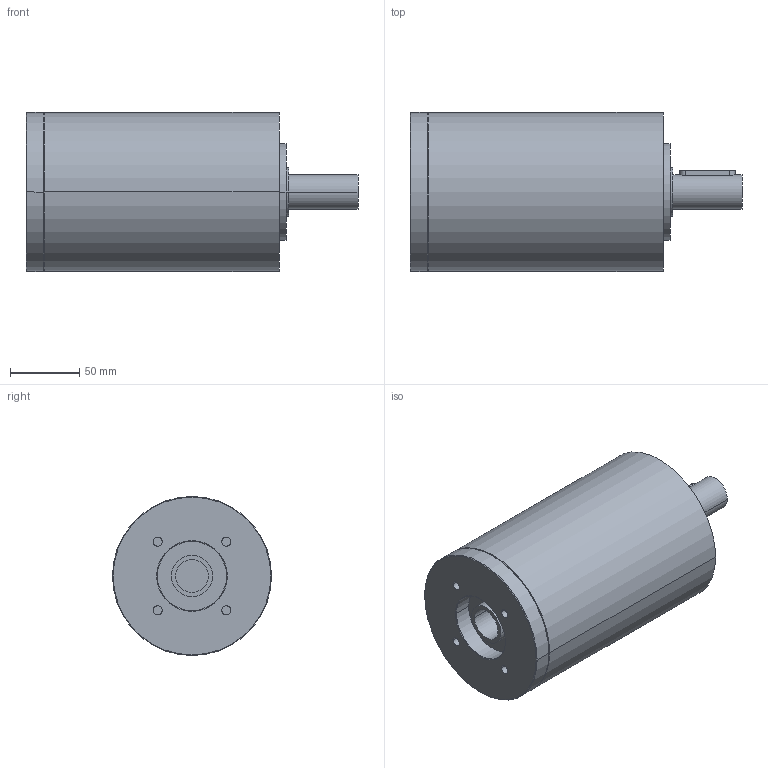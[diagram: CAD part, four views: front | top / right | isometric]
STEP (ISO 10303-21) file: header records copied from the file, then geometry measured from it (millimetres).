
FILE_DESCRIPTION(('CoCreate Modeling STEP Export'),'2;1');
FILE_NAME('GPR125_ig-9-12-16-20-28-35_25_B14_24_P14.stp','2014-08-26T14:11:23',(''),(''),'CoCreate Modeling STEP processor for AP214 (Solid Model)','CoCreate Modeling 16.00C 25-Feb-2009 (C) Parametric Technology GmbH','');
FILE_SCHEMA(('AUTOMOTIVE_DESIGN { 1 0 10303 214 1 1 1 1 }'));
Length unit declared in the file: millimetre
Products named in the file (2): GPR125_ig-9-12-16-20-28-35_25_B14_24_P14
Assembly tree (1 placements, depth 2):
  GPR125_ig-9-12-16-20-28-35_25_B14_24_P14
    GPR125_ig-9-12-16-20-28-35_25_B14_24_P14
Bounding box: 240 x 115 x 115 mm (x, y, z)
Volume: 1893167.8 mm3; surface area: 103870.5 mm2
Topology: 1 solids, 1 shells, 78 faces, 192 edges, 134 vertices
Faces by surface type: cylinder 44, plane 24, cone 10
Entity records: 1955 total; most frequent: ORIENTED_EDGE 380, CARTESIAN_POINT 360, DIRECTION 256, EDGE_CURVE 190, VERTEX_POINT 134, AXIS2_PLACEMENT_3D 98, EDGE_LOOP 98, FACE_OUTER_BOUND 78
